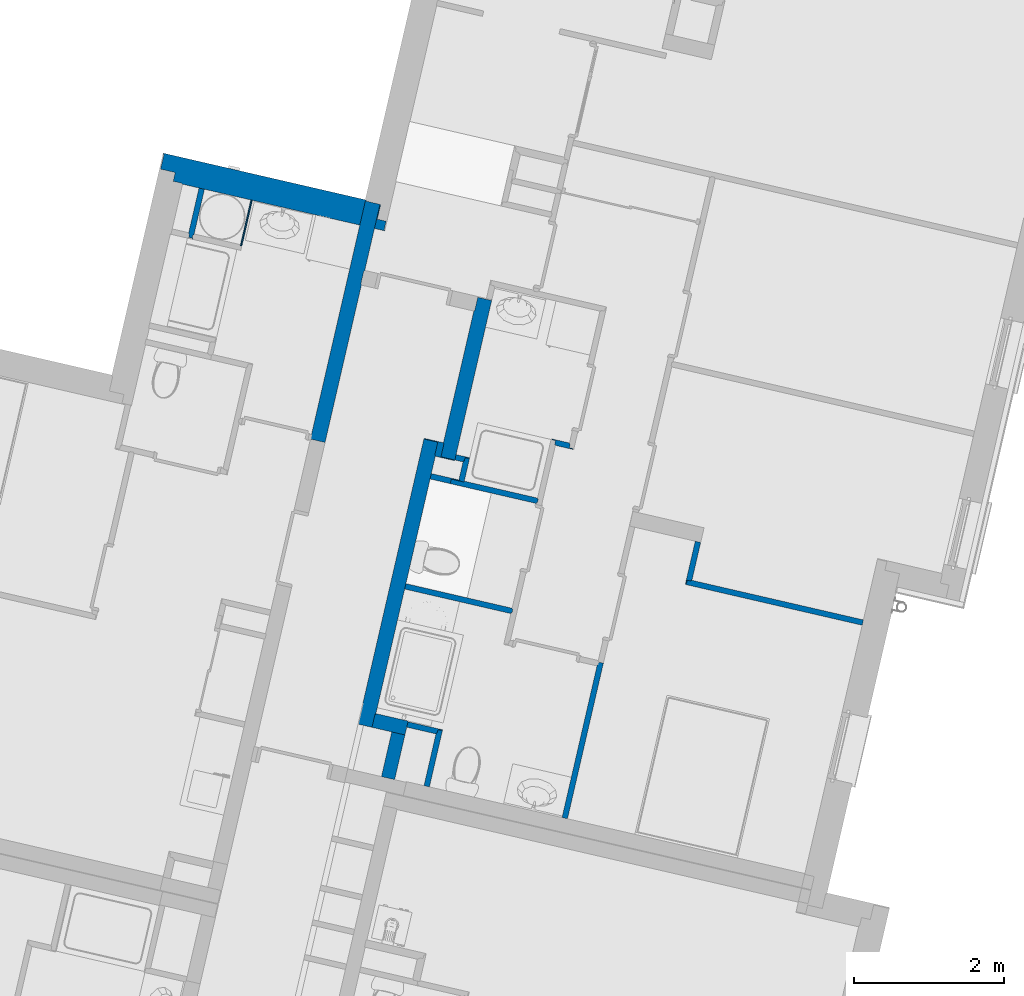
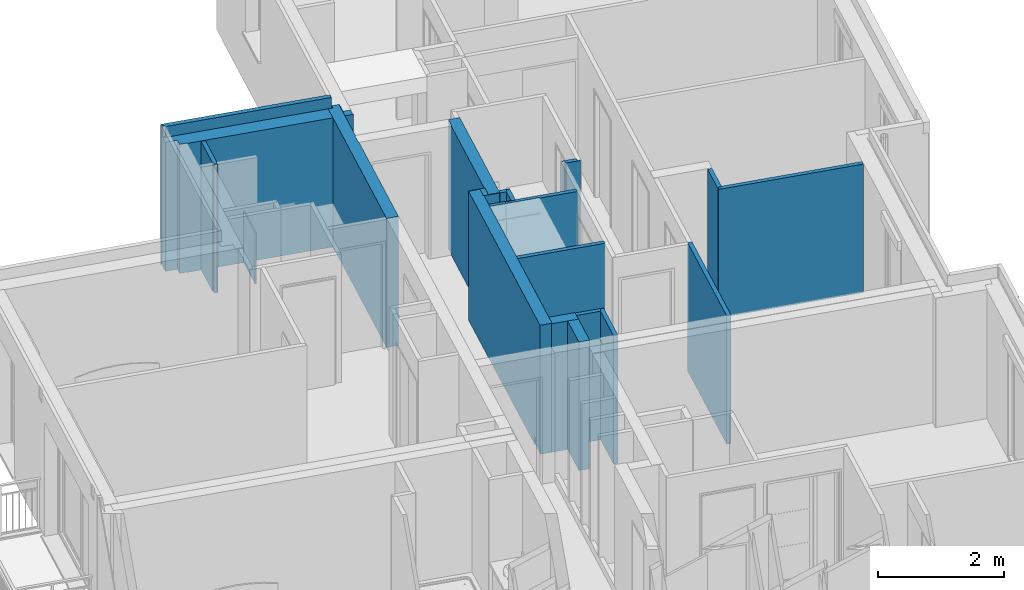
# One storey, part 47 of 91: 20 walls.
"""IFC2X3 building model written with IfcOpenShell, lengths in metres."""

from ifc_helpers import new_model, entity, si_unit, converted_unit, derived_unit, money_unit, direction, frame, origin_with_axes, place, context, subcontext, project, spatial, faceted_brep, material, material_list, type_object, element, save


model = new_model("IFC2X3")

# Units and contexts
model_context = context("Model", 3, precision=1e-05, world=origin_with_axes(), true_north=direction((0.0, 1.0)))
body_context = subcontext(model_context, "Body", "Model", "MODEL_VIEW")
ifc_project = project(units=[si_unit("LENGTHUNIT", "METRE"), si_unit("AREAUNIT", "SQUARE_METRE"), si_unit("VOLUMEUNIT", "CUBIC_METRE"), converted_unit("PLANEANGLEUNIT", "DEGREE", entity("IfcPlaneAngleMeasure", 0.0174532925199), si_unit("PLANEANGLEUNIT", "RADIAN"), dimensions=[0, 0, 0, 0, 0, 0, 0]), si_unit("SOLIDANGLEUNIT", "STERADIAN"), money_unit("EUR"), converted_unit("TIMEUNIT", "Year", entity("IfcTimeMeasure", 31556926.0), si_unit("TIMEUNIT", "SECOND"), dimensions=[0, 0, 1, 0, 0, 0, 0]), si_unit("MASSUNIT", "GRAM", prefix="KILO"), si_unit("THERMODYNAMICTEMPERATUREUNIT", "DEGREE_CELSIUS"), si_unit("LUMINOUSINTENSITYUNIT", "LUMEN"), si_unit("ENERGYUNIT", "JOULE", prefix="MEGA"), derived_unit("THERMALCONDUCTANCEUNIT", [(si_unit("POWERUNIT", "WATT"), 1), (si_unit("LENGTHUNIT", "METRE"), -1), (si_unit("THERMODYNAMICTEMPERATUREUNIT", "KELVIN"), -1)]), derived_unit("SPECIFICHEATCAPACITYUNIT", [(si_unit("ENERGYUNIT", "JOULE"), 1), (si_unit("MASSUNIT", "GRAM", prefix="KILO"), -1), (si_unit("THERMODYNAMICTEMPERATUREUNIT", "KELVIN"), -1)]), derived_unit("MASSDENSITYUNIT", [(si_unit("MASSUNIT", "GRAM", prefix="KILO"), 1), (si_unit("VOLUMEUNIT", "CUBIC_METRE"), -1)])], contexts=[model_context])

# Site, building, storey
site_placement = place(None, origin_with_axes())
site = spatial("IfcSite", under=ifc_project, at=site_placement, Name="Site", CompositionType="ELEMENT")
building_placement = place(site_placement, origin_with_axes())
building = spatial("IfcBuilding", under=site, at=building_placement, Name="Bâtiment", CompositionType="ELEMENT")
storey_placement = place(building_placement, frame((0.0, 0.0, 5.44), z_axis=(0.0, 0.0, 1.0), x_axis=(1.0, 0.0, 0.0)))
storey = spatial("IfcBuildingStorey", under=building, at=storey_placement, Name="R+2", CompositionType="ELEMENT", Elevation=5.44)

# Walls
ifc_material_1 = material(Name="Finition int - Plaque de plâtre")
ifc_material_2 = material(Name="Isolation - Polystyrène extrudé")
ifc_material_3 = material(Name="Bloc ELITHERM")
ifc_material_4 = material(Name="Isolation - Polystyrène expansé")
ifc_material_5 = material(Name="Mortier")
ifc_material_6 = material(Name="Béton cellulaire")
ifc_material_7 = material(Name="Finition ext - Crépis")
ifc_material_list_1 = material_list([ifc_material_1, ifc_material_2, ifc_material_3, ifc_material_4, ifc_material_5, ifc_material_6, ifc_material_7])
wall_type_1 = type_object("IfcWallType", Name="Mur ALKERN + planelle 21 345 x 2720", PredefinedType="USERDEFINED")
wall_1_placement = place(storey_placement, frame((-8.19769074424, 11.8040918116, 0.0), z_axis=(0.0, 0.0, 1.0), x_axis=(-0.974387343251, 0.224876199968, 0.0)))
element("IfcWall", 1, at=wall_1_placement, inside=storey, type_object=wall_type_1, material=ifc_material_list_1, Name="Mue bloc ALKERN isolé", ObjectType="SOLIDWALL", context=body_context, shape_type="Brep", body=[
    faceted_brep([(-0.344999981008, 0.335000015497, 0.0), (2.42531035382, 0.335000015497, 0.0), (2.42531035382, 0.335000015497, 2.51), (-0.344999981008, 0.335000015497, 2.51000000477), (-0.344999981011, 0.34499998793, 0.0), (2.42531035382, 0.34499998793, 0.0), (2.42531035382, 0.34499998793, 2.51), (-0.344999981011, 0.34499998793, 2.51000000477)], [[[0, 1, 2, 3]], [[4, 5, 1, 0]], [[5, 6, 2, 1]], [[3, 2, 6, 7]], [[7, 4, 0, 3]], [[7, 6, 5, 4]]]),
    faceted_brep([(2.54531037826, 0.335000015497, 2.50999999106), (-0.335000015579, 0.335000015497, 2.51), (-0.33500001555, 0.215000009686, 2.51), (2.54531037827, 0.215000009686, 2.50999999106), (2.54531037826, 0.335000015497, 0.0), (-0.335000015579, 0.335000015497, 0.0), (-0.33500001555, 0.215000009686, 0.0), (2.54531037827, 0.215000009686, 0.0)], [[[0, 1, 2, 3]], [[4, 5, 1, 0]], [[5, 6, 2, 1]], [[3, 2, 6, 7]], [[4, 0, 3, 7]], [[7, 6, 5, 4]]]),
    faceted_brep([(-0.215000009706, 0.0829999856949, 2.51), (-0.215000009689, 0.015, 2.51), (2.74531038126, 0.015, 2.50999999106), (2.74531038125, 0.0829999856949, 2.50999999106), (-0.215000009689, 0.015, 0.0), (-0.215000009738, 0.214999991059, 2.51), (-0.215000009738, 0.214999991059, 0.0), (2.74531038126, 0.015, 0.0), (2.74531038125, 0.214999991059, 0.0), (2.74531038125, 0.214999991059, 2.50999999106)], [[[0, 1, 2, 3]], [[4, 1, 0, 5, 6]], [[1, 4, 7, 2]], [[3, 2, 7, 8, 9]], [[5, 0, 3, 9]], [[6, 5, 9, 8]], [[4, 6, 8, 7]]]),
    faceted_brep([(-0.0610966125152, 0.083000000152, 2.72), (-0.0610966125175, 0.0629999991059, 2.72), (2.69731037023, 0.0630000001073, 2.72), (2.69731037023, 0.083000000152, 2.72), (-0.0610966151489, 0.0629999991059, 2.51999999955), (-0.0610966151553, 0.083, 2.51999998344), (2.69731037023, 0.0630000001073, 2.51999999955), (2.69731037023, 0.083000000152, 2.51999999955)], [[[0, 1, 2, 3]], [[4, 1, 0, 5]], [[1, 4, 6, 2]], [[7, 3, 2, 6]], [[5, 0, 3, 7]], [[4, 5, 7, 6]]]),
    faceted_brep([(2.74531038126, 0.015, 2.50999999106), (2.74531038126, 0.015, 2.51999999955), (-0.0830000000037, 0.015, 2.51999998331), (-0.0830000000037, 0.015, 2.51000000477), (2.74531038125, 0.083, 2.51999999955), (2.74531038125, 0.083, 2.50999999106), (-0.0830000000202, 0.083, 2.51999998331), (-0.0830000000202, 0.083, 2.51000000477)], [[[0, 1, 2, 3]], [[4, 1, 0, 5]], [[1, 4, 6, 2]], [[7, 3, 2, 6]], [[5, 0, 3, 7]], [[4, 5, 7, 6]]]),
    faceted_brep([(-0.0630000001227, 0.0629999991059, 2.72), (-0.0630000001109, 0.015, 2.72), (2.74531038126, 0.015, 2.72), (2.74531038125, 0.0629999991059, 2.72), (-0.0630000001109, 0.015, 2.51999999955), (-0.0630000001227, 0.0629999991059, 2.51999999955), (2.74531038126, 0.015, 2.51999999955), (2.74531038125, 0.0629999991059, 2.51999999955)], [[[0, 1, 2, 3]], [[4, 1, 0, 5]], [[1, 4, 6, 2]], [[3, 2, 6, 7]], [[5, 0, 3, 7]], [[4, 5, 7, 6]]]),
    faceted_brep([(2.76031035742, 0.0149999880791, 2.72), (-0.0150000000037, 0.0149999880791, 2.72), (-0.015, 0.0, 2.72), (2.76031035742, 0.0, 2.72), (-0.0150000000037, 0.0149999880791, 0.0), (2.76031035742, 0.0149999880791, 0.0), (-0.015, 0.0, 0.0), (2.76031035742, 0.0, 0.0)], [[[0, 1, 2, 3]], [[4, 1, 0, 5]], [[6, 2, 1, 4]], [[3, 2, 6, 7]], [[7, 5, 0, 3]], [[7, 6, 4, 5]]]),
])
ifc_material_8 = material(Name="Isolation - Laine de roche")
ifc_material_list_2 = material_list([ifc_material_1, ifc_material_8, ifc_material_1])
wall_type_2 = type_object("IfcWallType", Name="3 - Cloison 72mm Placostil 74", PredefinedType="USERDEFINED")
wall_2_placement = place(storey_placement, frame((-6.89703415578, 7.98844929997, 0.0), z_axis=(0.0, 0.0, 1.0), x_axis=(0.974387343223, -0.224876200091, 0.0)))
element("IfcWall", 2, at=wall_2_placement, inside=storey, type_object=wall_type_2, material=ifc_material_list_2, Name="Cloison Placostil 72/48", ObjectType="PARTITIONING", context=body_context, shape_type="Brep", body=[
    faceted_brep([(1.00000001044, 0.074, 0.0), (0.0, 0.074, 0.0), (0.0, 0.074, 2.5), (1.00000001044, 0.074, 2.5), (1.00000001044, 0.061, 0.0), (0.0, 0.061, 0.0), (0.0, 0.061, 2.5), (1.00000001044, 0.061, 2.5)], [[[0, 1, 2, 3]], [[4, 5, 1, 0]], [[5, 6, 2, 1]], [[3, 2, 6, 7]], [[3, 7, 4, 0]], [[7, 6, 5, 4]]]),
    faceted_brep([(1.01300001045, 0.013, 0.0), (-0.174000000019, 0.013, 0.0), (-0.174000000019, 0.061, 0.0), (1.01300001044, 0.061, 0.0), (1.01300001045, 0.013, 2.5), (-0.174000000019, 0.013, 2.5), (-0.174000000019, 0.061, 2.5), (1.01300001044, 0.061, 2.5)], [[[0, 1, 2, 3]], [[4, 5, 1, 0]], [[1, 5, 6, 2]], [[3, 2, 6, 7]], [[7, 4, 0, 3]], [[7, 6, 5, 4]]]),
    faceted_brep([(-0.174000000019, 0.0129999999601, 2.2), (0.386999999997, 0.0130000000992, 2.2), (0.386999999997, 0.0130000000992, 2.5), (1.00000001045, 0.013, 2.5), (1.00000001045, 0.013, 0.0), (-0.174000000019, 0.013, 0.0), (-0.174000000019, 0.0, 2.2), (0.387000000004, 0.0, 2.2), (0.387000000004, 0.0, 2.5), (1.00000001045, 0.0, 2.5), (1.00000001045, 0.0, 0.0), (-0.174000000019, 0.0, 0.0)], [[[0, 1, 2, 3, 4, 5]], [[1, 0, 6, 7]], [[8, 2, 1, 7]], [[2, 8, 9, 3]], [[3, 9, 10, 4]], [[10, 11, 5, 4]], [[6, 0, 5, 11]], [[7, 6, 11, 10, 9, 8]]]),
])
wall_3_placement = place(storey_placement, frame((-5.42479558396, 8.47996694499, 0.0), z_axis=(0.0, 0.0, 1.0), x_axis=(-0.974387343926, 0.224876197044, 0.0)))
element("IfcWall", 3, at=wall_3_placement, inside=storey, type_object=wall_type_2, material=ifc_material_list_2, Name="Cloison Placostil 72/48", ObjectType="PARTITIONING", context=body_context, shape_type="Brep", body=[
    faceted_brep([(0.24999999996, -0.013, 2.5), (0.249999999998, 0.0, 2.5), (0.013, 0.0, 2.5), (0.012999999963, -0.013, 2.5), (0.24999999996, -0.013, 0.0), (0.249999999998, 0.0, 0.0), (0.013, 0.0, 0.0), (0.012999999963, -0.013, 0.0)], [[[0, 1, 2, 3]], [[1, 0, 4, 5]], [[1, 5, 6, 2]], [[7, 3, 2, 6]], [[4, 0, 3, 7]], [[5, 4, 7, 6]]]),
    faceted_brep([(0.26299999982, -0.061, 2.5), (0.26299999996, -0.013, 2.5), (0.060999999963, -0.013, 2.5), (0.0609999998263, -0.061, 2.5), (0.26299999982, -0.061, 0.0), (0.26299999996, -0.013, 0.0), (0.060999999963, -0.013, 0.0), (0.0609999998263, -0.061, 0.0)], [[[0, 1, 2, 3]], [[1, 0, 4, 5]], [[1, 5, 6, 2]], [[7, 3, 2, 6]], [[4, 0, 3, 7]], [[5, 4, 7, 6]]]),
    faceted_brep([(0.310999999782, -0.074, 2.5), (0.31099999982, -0.061, 2.5), (0.0739999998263, -0.061, 2.5), (0.0739999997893, -0.074, 2.5), (0.310999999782, -0.074, 0.0), (0.31099999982, -0.061, 0.0), (0.0739999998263, -0.061, 0.0), (0.0739999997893, -0.074, 0.0)], [[[0, 1, 2, 3]], [[1, 0, 4, 5]], [[1, 5, 6, 2]], [[7, 3, 2, 6]], [[4, 0, 3, 7]], [[5, 4, 7, 6]]]),
])
wall_4_placement = place(storey_placement, frame((-6.17200813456, 6.35402185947, 0.0), z_axis=(0.0, 0.0, 1.0), x_axis=(-0.974387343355, 0.224876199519, 0.0)))
element("IfcWall", 4, at=wall_4_placement, inside=storey, type_object=wall_type_2, material=ifc_material_list_2, Name="Cloison Placostil 72/48", ObjectType="PARTITIONING", context=body_context, shape_type="Brep", body=[
    faceted_brep([(0.0740000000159, 0.074, 0.0), (1.52399999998, 0.074, 0.0), (1.52399999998, 0.061, 0.0), (0.0740000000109, 0.061, 0.0), (0.0740000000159, 0.074, 2.5), (1.52399999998, 0.074, 2.5), (1.52399999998, 0.061, 2.5), (0.0740000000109, 0.061, 2.5)], [[[0, 1, 2, 3]], [[4, 5, 1, 0]], [[2, 1, 5, 6]], [[3, 2, 6, 7]], [[4, 0, 3, 7]], [[7, 6, 5, 4]]]),
    faceted_brep([(0.0610000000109, 0.061, 0.0), (1.52399999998, 0.061, 0.0), (1.52399999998, 0.013, 0.0), (0.0609999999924, 0.013, 0.0), (0.0610000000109, 0.061, 2.5), (1.52399999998, 0.061, 2.5), (1.52399999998, 0.013, 2.5), (0.0609999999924, 0.013, 2.5)], [[[0, 1, 2, 3]], [[4, 5, 1, 0]], [[2, 1, 5, 6]], [[3, 2, 6, 7]], [[4, 0, 3, 7]], [[7, 6, 5, 4]]]),
    faceted_brep([(0.0739999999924, 0.013, 0.0), (1.52399999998, 0.013, 0.0), (1.52399999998, 0.0, 0.0), (0.0739999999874, 0.0, 0.0), (0.0739999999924, 0.013, 2.5), (1.52399999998, 0.013, 2.5), (1.52399999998, 0.0, 2.5), (0.0739999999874, 0.0, 2.5)], [[[0, 1, 2, 3]], [[4, 5, 1, 0]], [[2, 1, 5, 6]], [[3, 2, 6, 7]], [[4, 0, 3, 7]], [[7, 6, 5, 4]]]),
])
wall_5_placement = place(storey_placement, frame((-3.73316661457, 7.25519007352, 0.0), z_axis=(0.0, 0.0, 1.0), x_axis=(-0.224876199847, -0.974387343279, 0.0)))
element("IfcWall", 5, at=wall_5_placement, inside=storey, type_object=wall_type_2, material=ifc_material_list_2, Name="Cloison Placostil 72/48", ObjectType="PARTITIONING", context=body_context, shape_type="Brep", body=[
    faceted_brep([(0.0100000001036, 3.92746279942e-10, 0.0), (0.0100000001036, 3.92746279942e-10, 2.5), (0.526999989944, 0.0, 2.5), (0.526999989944, 0.0, 0.0), (0.0100000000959, -0.013, 2.5), (0.0100000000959, -0.013, 0.0), (0.526999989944, -0.013, 2.5), (0.526999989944, -0.013, 0.0)], [[[0, 1, 2, 3]], [[4, 1, 0, 5]], [[1, 4, 6, 2]], [[3, 2, 6, 7]], [[5, 0, 3, 7]], [[4, 5, 7, 6]]]),
    faceted_brep([(0.0100000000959, -0.013, 0.0), (0.0100000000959, -0.013, 2.5), (0.539999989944, -0.013, 2.5), (0.539999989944, -0.013, 0.0), (0.0100000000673, -0.061, 2.5), (0.0100000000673, -0.061, 0.0), (0.539999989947, -0.061, 2.5), (0.539999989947, -0.061, 0.0)], [[[0, 1, 2, 3]], [[4, 1, 0, 5]], [[1, 4, 6, 2]], [[3, 2, 6, 7]], [[5, 0, 3, 7]], [[4, 5, 7, 6]]]),
    faceted_brep([(0.0100000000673, -0.061, 0.0), (0.0100000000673, -0.061, 2.5), (0.587999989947, -0.061, 2.5), (0.587999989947, -0.061, 0.0), (0.0100000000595, -0.074, 2.5), (0.0100000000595, -0.074, 0.0), (0.587999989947, -0.074, 2.5), (0.587999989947, -0.074, 0.0)], [[[0, 1, 2, 3]], [[4, 1, 0, 5]], [[1, 4, 6, 2]], [[3, 2, 6, 7]], [[5, 0, 3, 7]], [[4, 5, 7, 6]]]),
])
wall_6_placement = place(storey_placement, frame((-5.10206374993, 5.65503833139, 0.0), z_axis=(0.0, 0.0, 1.0), x_axis=(-0.224876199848, -0.974387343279, 0.0)))
element("IfcWall", 6, at=wall_6_placement, inside=storey, type_object=wall_type_2, material=ifc_material_list_2, Name="Cloison Placostil 72/48", ObjectType="PARTITIONING", context=body_context, shape_type="Brep", body=[
    faceted_brep([(0.0, 0.074, 0.0), (2.1239999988, 0.074, 0.0), (2.1239999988, 0.061, 0.0), (0.0, 0.061, 0.0), (0.0, 0.074, 2.5), (2.1239999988, 0.074, 2.5), (2.1239999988, 0.061, 2.5), (0.0, 0.061, 2.5)], [[[0, 1, 2, 3]], [[4, 5, 1, 0]], [[2, 1, 5, 6]], [[3, 2, 6, 7]], [[4, 0, 3, 7]], [[7, 6, 5, 4]]]),
    faceted_brep([(0.0, 0.061, 0.0), (2.1239999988, 0.061, 0.0), (2.1239999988, 0.013, 0.0), (0.0, 0.013, 0.0), (0.0, 0.061, 2.5), (2.1239999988, 0.061, 2.5), (2.1239999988, 0.013, 2.5), (0.0, 0.013, 2.5)], [[[0, 1, 2, 3]], [[4, 5, 1, 0]], [[2, 1, 5, 6]], [[3, 2, 6, 7]], [[4, 0, 3, 7]], [[7, 6, 5, 4]]]),
    faceted_brep([(0.0, 0.013, 0.0), (2.1239999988, 0.013, 0.0), (2.1239999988, 0.0, 0.0), (0.0, 0.0, 0.0), (0.0, 0.013, 2.5), (2.1239999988, 0.013, 2.5), (2.1239999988, 0.0, 2.5), (0.0, 0.0, 2.5)], [[[0, 1, 2, 3]], [[4, 5, 1, 0]], [[2, 1, 5, 6]], [[3, 2, 6, 7]], [[4, 0, 3, 7]], [[7, 6, 5, 4]]]),
])
wall_7_placement = place(storey_placement, frame((-1.57018123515, 6.21514790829, 0.0), z_axis=(0.0, 0.0, 1.0), x_axis=(-0.97438734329, 0.224876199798, 0.0)))
element("IfcWall", 7, at=wall_7_placement, inside=storey, type_object=wall_type_2, material=ifc_material_list_2, Name="Cloison Placostil 72/48", ObjectType="PARTITIONING", context=body_context, shape_type="Brep", body=[
    faceted_brep([(2.4154663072, 0.074, 0.0), (2.4154663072, 0.061, 0.0), (0.0, 0.061, 0.0), (0.0, 0.074, 0.0), (2.4154663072, 0.074, 2.5), (2.4154663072, 0.061, 2.5), (0.0, 0.061, 2.5), (0.0, 0.074, 2.5)], [[[0, 1, 2, 3]], [[1, 0, 4, 5]], [[1, 5, 6, 2]], [[7, 3, 2, 6]], [[4, 0, 3, 7]], [[5, 4, 7, 6]]]),
    faceted_brep([(2.4024663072, 0.061, 0.0), (2.4024663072, 0.013, 0.0), (0.0, 0.013, 0.0), (0.0, 0.061, 0.0), (2.4024663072, 0.061, 2.5), (2.4024663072, 0.013, 2.5), (0.0, 0.013, 2.5), (0.0, 0.061, 2.5)], [[[0, 1, 2, 3]], [[1, 0, 4, 5]], [[1, 5, 6, 2]], [[7, 3, 2, 6]], [[4, 0, 3, 7]], [[5, 4, 7, 6]]]),
    faceted_brep([(2.3544663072, 0.013, 0.0), (2.3544663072, 0.0, 0.0), (0.0, 0.0, 0.0), (0.0, 0.013, 0.0), (2.3544663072, 0.013, 2.5), (2.3544663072, 0.0, 2.5), (0.0, 0.0, 2.5), (0.0, 0.013, 2.5)], [[[0, 1, 2, 3]], [[1, 0, 4, 5]], [[1, 5, 6, 2]], [[7, 3, 2, 6]], [[4, 0, 3, 7]], [[5, 4, 7, 6]]]),
])
ifc_material_9 = material(Name="Finition int - Enduit plâtre")
ifc_material_10 = material(Name="Béton")
ifc_material_list_3 = material_list([ifc_material_9, ifc_material_10, ifc_material_9])
wall_type_3 = type_object("IfcWallType", Name="2 - Murs Béton 18 + Enduit 2 Faces 200", PredefinedType="USERDEFINED")
wall_8_placement = place(storey_placement, frame((-7.41569905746, 8.63155637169, 0.0), z_axis=(0.0, 0.0, 1.0), x_axis=(-0.224876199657, -0.974387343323, 0.0)))
element("IfcWall", 8, at=wall_8_placement, inside=storey, type_object=wall_type_3, material=ifc_material_list_3, Name="M_Ext-008", ObjectType="SOLIDWALL", context=body_context, shape_type="Brep", body=[
    faceted_brep([(3.72352431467, 0.19, 2.5), (3.72352431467, 0.19, 0.0), (3.72352431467, 0.2, 0.0), (3.72352431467, 0.2, 2.5), (0.190000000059, 0.19, 0.0), (3.90352431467, 0.19, 2.5), (3.90352431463, 0.19, 2.51), (0.190000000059, 0.19, 2.51), (0.190000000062, 0.2, 0.0), (0.190000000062, 0.2, 2.51), (3.90352431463, 0.2, 2.51), (3.90352431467, 0.2, 2.5)], [[[0, 1, 2, 3]], [[4, 1, 0, 5, 6, 7]], [[8, 2, 1, 4]], [[3, 2, 8, 9, 10, 11]], [[0, 3, 11, 5]], [[6, 5, 11, 10]], [[9, 7, 6, 10]], [[7, 9, 8, 4]]]),
    faceted_brep([(3.90352431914, 0.19, 2.5), (3.9035243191, 0.01, 2.5), (3.90352431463, 0.01, 0.150000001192), (3.90352431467, 0.19, 0.150000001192), (3.90352431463, 0.19, 2.51), (3.90352431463, 0.01, 2.51), (0.0100000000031, 0.01, 2.51), (0.0100000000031, 0.01, 0.0), (3.90352431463, 0.01, 0.0), (3.90352431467, 0.19, 0.0), (0.0100000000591, 0.19, 0.0), (0.0100000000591, 0.19, 2.51)], [[[0, 1, 2, 3]], [[4, 5, 1, 0]], [[6, 7, 8, 2, 1, 5]], [[2, 8, 9, 3]], [[4, 0, 3, 9, 10, 11]], [[11, 6, 5, 4]], [[6, 11, 10, 7]], [[7, 10, 9, 8]]]),
    faceted_brep([(3.90352431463, 0.01, 0.15), (3.61352431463, 0.01, 0.15), (3.61352431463, 0.01, 0.0), (0.0, 0.01, 0.0), (0.0, 0.01, 2.51), (3.90352431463, 0.01, 2.51), (3.9035243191, 0.01, 2.5), (3.61352431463, 0.0, 0.15), (3.90352431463, 0.0, 0.15), (3.61352431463, 0.0, 0.0), (0.0, 0.0, 0.0), (0.0, 0.0, 2.51), (3.90352431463, 0.0, 2.51), (3.9035243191, 0.0, 2.5)], [[[0, 1, 2, 3, 4, 5, 6]], [[7, 1, 0, 8]], [[9, 2, 1, 7]], [[3, 2, 9, 10]], [[11, 4, 3, 10]], [[4, 11, 12, 5]], [[5, 12, 13, 6]], [[13, 8, 0, 6]], [[9, 7, 8, 13, 12, 11, 10]]]),
])
wall_9_placement = place(storey_placement, frame((-8.1864480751, 11.786102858, 0.0), z_axis=(0.0, 0.0, 1.0), x_axis=(-0.224876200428, -0.974387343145, 0.0)))
element("IfcWall", 9, at=wall_9_placement, inside=storey, type_object=wall_type_3, material=ifc_material_list_3, Name="M_Ext-009", ObjectType="SOLIDWALL", context=body_context, shape_type="Brep", body=[
    faceted_brep([(1.09242705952, 0.19, 0.0), (3.2515978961, 0.19, 0.0), (3.2515978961, 0.18, 0.0), (1.09242705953, 0.18, 0.0), (1.09242705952, 0.19, 2.51), (3.2515978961, 0.19, 2.51), (3.2515978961, 0.18, 2.51), (1.09242705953, 0.18, 2.51)], [[[0, 1, 2, 3]], [[4, 5, 1, 0]], [[2, 1, 5, 6]], [[3, 2, 6, 7]], [[4, 0, 3, 7]], [[7, 6, 5, 4]]]),
    faceted_brep([(0.912427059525, 0.19, 0.0), (0.912427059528, 0.18, 0.0), (0.0, 0.18, 0.0), (0.0, 0.19, 0.0), (0.912427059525, 0.19, 2.51), (0.912427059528, 0.18, 2.51), (0.0, 0.18, 2.51), (0.0, 0.19, 2.51)], [[[0, 1, 2, 3]], [[1, 0, 4, 5]], [[1, 5, 6, 2]], [[7, 3, 2, 6]], [[4, 0, 3, 7]], [[5, 4, 7, 6]]]),
    faceted_brep([(0.0, 0.18, 0.0), (3.2515978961, 0.18, 0.0), (3.2515978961, 0.0, 0.0), (0.0, 0.0, 0.0), (0.0, 0.18, 2.51), (3.2515978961, 0.18, 2.51), (3.2515978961, 0.0, 2.51), (0.0, 0.0, 2.51)], [[[0, 1, 2, 3]], [[4, 5, 1, 0]], [[2, 1, 5, 6]], [[3, 2, 6, 7]], [[4, 0, 3, 7]], [[7, 6, 5, 4]]]),
    faceted_brep([(0.0, 0.0, 0.0), (3.2515978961, 0.0, 0.0), (3.2515978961, -0.01, 0.0), (0.0, -0.01, 0.0), (0.0, 0.0, 2.51), (3.2515978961, 0.0, 2.51), (3.2515978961, -0.01, 2.51), (0.0, -0.01, 2.51)], [[[0, 1, 2, 3]], [[4, 5, 1, 0]], [[2, 1, 5, 6]], [[3, 2, 6, 7]], [[4, 0, 3, 7]], [[7, 6, 5, 4]]]),
])
wall_10_placement = place(storey_placement, frame((-6.75353951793, 10.3240004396, 0.0), z_axis=(0.0, 0.0, 1.0), x_axis=(-0.224876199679, -0.974387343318, 0.0)))
element("IfcWall", 10, at=wall_10_placement, inside=storey, type_object=wall_type_3, material=ifc_material_list_3, Name="M_Ext-008", ObjectType="SOLIDWALL", context=body_context, shape_type="Brep", body=[
    faceted_brep([(1.99800000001, 0.2, 0.0), (1.99800000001, 0.19, 0.0), (-0.19999999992, 0.19, 0.0), (-0.199999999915, 0.2, 0.0), (1.99800000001, 0.2, 2.51), (1.99800000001, 0.19, 2.51), (-0.19999999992, 0.19, 2.51), (-0.199999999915, 0.2, 2.51)], [[[0, 1, 2, 3]], [[1, 0, 4, 5]], [[1, 5, 6, 2]], [[7, 3, 2, 6]], [[4, 0, 3, 7]], [[5, 4, 7, 6]]]),
    faceted_brep([(1.98800000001, 0.19, 0.0), (1.98799999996, 0.01, 0.0), (-0.189999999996, 0.01, 0.0), (-0.18999999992, 0.19, 0.0), (1.98800000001, 0.19, 2.51), (1.98799999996, 0.01, 2.51), (-0.189999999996, 0.01, 2.51), (-0.18999999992, 0.19, 2.51)], [[[0, 1, 2, 3]], [[1, 0, 4, 5]], [[1, 5, 6, 2]], [[7, 3, 2, 6]], [[4, 0, 3, 7]], [[5, 4, 7, 6]]]),
    faceted_brep([(1.80799999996, 0.01, 0.0), (1.80799999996, 0.0, 0.0), (-0.01, 0.0, 0.0), (-0.00999999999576, 0.01, 0.0), (1.80799999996, 0.01, 2.51), (1.80799999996, 0.0, 2.51), (-0.01, 0.0, 2.51), (-0.00999999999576, 0.01, 2.51)], [[[0, 1, 2, 3]], [[1, 0, 4, 5]], [[1, 5, 6, 2]], [[7, 3, 2, 6]], [[4, 0, 3, 7]], [[5, 4, 7, 6]]]),
])
wall_11_placement = place(storey_placement, frame((-7.15786692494, 8.57205199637, 0.0), z_axis=(0.0, 0.0, 1.0), x_axis=(-0.974387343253, 0.22487619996, 0.0)))
element("IfcWall", 11, at=wall_11_placement, inside=storey, type_object=wall_type_3, material=ifc_material_list_3, Name="M_Ext-008", ObjectType="SOLIDWALL", context=body_context, shape_type="Brep", body=[
    faceted_brep([(0.0646094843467, 0.2, 0.0), (0.0646094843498, 0.19, 0.0), (-0.190000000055, 0.19, 0.0), (-0.190000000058, 0.2, 0.0), (0.0646094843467, 0.2, 2.51), (0.0646094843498, 0.19, 2.51), (-0.190000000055, 0.19, 2.51), (-0.190000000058, 0.2, 2.51)], [[[0, 1, 2, 3]], [[1, 0, 4, 5]], [[1, 5, 6, 2]], [[7, 3, 2, 6]], [[4, 0, 3, 7]], [[5, 4, 7, 6]]]),
    faceted_brep([(0.0746094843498, 0.19, 0.0), (0.0746094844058, 0.01, 0.0), (-0.0100000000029, 0.01, 0.0), (-0.0100000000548, 0.19, 0.0), (0.0746094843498, 0.19, 2.51), (0.0746094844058, 0.01, 2.51), (-0.0100000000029, 0.01, 2.51), (-0.0100000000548, 0.19, 2.51)], [[[0, 1, 2, 3]], [[1, 0, 4, 5]], [[1, 5, 6, 2]], [[7, 3, 2, 6]], [[4, 0, 3, 7]], [[5, 4, 7, 6]]]),
    faceted_brep([(0.254609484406, 0.01, 0.0), (0.254609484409, 0.0, 0.0), (0.0, 0.0, 0.0), (0.0, 0.01, 0.0), (0.254609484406, 0.01, 2.51), (0.254609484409, 0.0, 2.51), (0.0, 0.0, 2.51), (0.0, 0.01, 2.51)], [[[0, 1, 2, 3]], [[1, 0, 4, 5]], [[1, 5, 6, 2]], [[7, 3, 2, 6]], [[4, 0, 3, 7]], [[5, 4, 7, 6]]]),
])
wall_type_4 = type_object("IfcWallType", Name="3 - Cloison Gaine Technique 72mm 74", PredefinedType="USERDEFINED")
wall_12_placement = place(storey_placement, frame((-6.82507377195, 8.30025324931, 0.0), z_axis=(0.0, 0.0, 1.0), x_axis=(-0.224876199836, -0.974387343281, 0.0)))
element("IfcWall", 12, at=wall_12_placement, inside=storey, type_object=wall_type_4, material=ifc_material_list_2, Name="Cloison Placostil 72/48", ObjectType="PARTITIONING", context=body_context, shape_type="Brep", body=[
    faceted_brep([(-0.0740000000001, -0.013, 2.5), (0.258999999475, -0.013, 2.5), (0.258999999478, 0.0, 2.5), (-0.074, 0.0, 2.5), (-0.0740000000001, -0.013, 0.0), (0.258999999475, -0.013, 0.0), (0.258999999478, 0.0, 0.0), (-0.074, 0.0, 0.0)], [[[0, 1, 2, 3]], [[4, 5, 1, 0]], [[5, 6, 2, 1]], [[3, 2, 6, 7]], [[7, 4, 0, 3]], [[7, 6, 5, 4]]]),
    faceted_brep([(-0.0610000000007, -0.061, 2.5), (0.258999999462, -0.061, 2.5), (0.258999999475, -0.013, 2.5), (-0.0610000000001, -0.013, 2.5), (-0.0610000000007, -0.061, 0.0), (0.258999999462, -0.061, 0.0), (0.258999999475, -0.013, 0.0), (-0.0610000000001, -0.013, 0.0)], [[[0, 1, 2, 3]], [[4, 5, 1, 0]], [[6, 2, 1, 5]], [[3, 2, 6, 7]], [[7, 4, 0, 3]], [[7, 6, 5, 4]]]),
    faceted_brep([(-0.0130000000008, -0.074, 2.5), (0.245999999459, -0.074, 2.5), (0.245999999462, -0.061, 2.5), (-0.0130000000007, -0.061, 2.5), (-0.0130000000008, -0.074, 0.0), (0.245999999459, -0.074, 0.0), (0.245999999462, -0.061, 0.0), (-0.0130000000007, -0.061, 0.0)], [[[0, 1, 2, 3]], [[4, 5, 1, 0]], [[6, 2, 1, 5]], [[3, 2, 6, 7]], [[7, 4, 0, 3]], [[7, 6, 5, 4]]]),
])
wall_13_placement = place(storey_placement, frame((-7.33550845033, 8.08964358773, 0.0), z_axis=(0.0, 0.0, 1.0), x_axis=(0.974387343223, -0.224876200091, 0.0)))
element("IfcWall", 13, at=wall_13_placement, inside=storey, type_object=wall_type_4, material=ifc_material_list_2, Name="Cloison Placostil 72/48", ObjectType="PARTITIONING", context=body_context, shape_type="Brep", body=[
    faceted_brep([(0.0, 0.074, 0.0), (0.388999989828, 0.074, 0.0), (0.388999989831, 0.061, 0.0), (0.0, 0.061, 0.0), (0.0, 0.074, 2.5), (0.388999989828, 0.074, 2.5), (0.388999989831, 0.061, 2.5), (0.0, 0.061, 2.5)], [[[0, 1, 2, 3]], [[4, 5, 1, 0]], [[6, 2, 1, 5]], [[3, 2, 6, 7]], [[7, 4, 0, 3]], [[7, 6, 5, 4]]]),
    faceted_brep([(0.0, 0.013, 2.5), (0.275999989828, 0.013, 2.5), (0.275999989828, 0.061, 2.5), (0.0, 0.061, 2.5), (0.0, 0.013, 0.0), (0.275999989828, 0.013, 0.0), (0.275999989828, 0.061, 0.0), (0.0, 0.061, 0.0)], [[[0, 1, 2, 3]], [[4, 5, 1, 0]], [[5, 6, 2, 1]], [[3, 2, 6, 7]], [[0, 3, 7, 4]], [[7, 6, 5, 4]]]),
    faceted_brep([(0.0, 0.0129999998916, 2.2), (0.275999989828, 0.0129999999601, 2.2), (0.275999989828, 0.013, 0.0), (0.0, 0.013, 0.0), (0.275999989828, 0.0, 2.2), (0.0, 0.0, 2.2), (0.275999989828, 0.0, 0.0), (0.0, 0.0, 0.0)], [[[0, 1, 2, 3]], [[4, 1, 0, 5]], [[1, 4, 6, 2]], [[3, 2, 6, 7]], [[5, 0, 3, 7]], [[4, 5, 7, 6]]]),
])
wall_14_placement = place(storey_placement, frame((-10.3373790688, 11.9438360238, 0.0), z_axis=(0.0, 0.0, 1.0), x_axis=(-0.224876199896, -0.974387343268, 0.0)))
element("IfcWall", 14, at=wall_14_placement, inside=storey, type_object=wall_type_4, material=ifc_material_list_2, Name="Cloison Placostil 72/48", ObjectType="PARTITIONING", context=body_context, shape_type="Brep", body=[
    faceted_brep([(0.684000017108, 0.0, 0.0), (0.671000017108, 0.0, 0.0), (0.671000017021, 0.0, 2.5), (0.684000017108, 0.0, 2.5), (0.684000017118, -0.013, 0.0), (0.671000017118, -0.013, 0.0), (0.671000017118, -0.013, 2.5), (0.684000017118, -0.013, 2.5)], [[[0, 1, 2, 3]], [[4, 5, 1, 0]], [[5, 6, 2, 1]], [[3, 2, 6, 7]], [[0, 3, 7, 4]], [[7, 6, 5, 4]]]),
    faceted_brep([(0.0, -0.013, 2.5), (0.623000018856, -0.013, 2.5), (0.623000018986, 0.0, 2.5), (0.0, 0.0, 2.5), (0.0, -0.013, 0.0), (0.623000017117, -0.013, 0.0), (0.623000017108, 0.0, 0.0), (0.0, 0.0, 0.0)], [[[0, 1, 2, 3]], [[4, 5, 1, 0]], [[5, 6, 2, 1]], [[3, 2, 6, 7]], [[7, 4, 0, 3]], [[7, 6, 5, 4]]]),
    faceted_brep([(0.0, -0.061, 2.5), (0.671000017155, -0.061, 2.5), (0.671000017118, -0.013, 2.5), (0.0, -0.013, 2.5), (0.0, -0.061, 0.0), (0.671000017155, -0.061, 0.0), (0.671000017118, -0.013, 0.0), (0.0, -0.013, 0.0)], [[[0, 1, 2, 3]], [[4, 5, 1, 0]], [[6, 2, 1, 5]], [[3, 2, 6, 7]], [[7, 4, 0, 3]], [[7, 6, 5, 4]]]),
    faceted_brep([(0.623000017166, -0.074, 2.5), (0.623000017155, -0.061, 2.5), (0.0, -0.061, 2.5), (0.0, -0.074, 2.5), (0.623000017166, -0.074, 0.0), (0.623000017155, -0.061, 0.0), (0.0, -0.061, 0.0), (0.0, -0.074, 0.0)], [[[0, 1, 2, 3]], [[1, 0, 4, 5]], [[1, 5, 6, 2]], [[7, 3, 2, 6]], [[4, 0, 3, 7]], [[5, 4, 7, 6]]]),
])
wall_15_placement = place(storey_placement, frame((-7.16853794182, 4.75311419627, 0.0), z_axis=(0.0, 0.0, 1.0), x_axis=(-0.224876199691, -0.974387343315, 0.0)))
element("IfcWall", 15, at=wall_15_placement, inside=storey, type_object=wall_type_4, material=ifc_material_list_2, Name="Cloison Placostil 72/48", ObjectType="PARTITIONING", context=body_context, shape_type="Brep", body=[
    faceted_brep([(0.0, -0.013, 2.5), (0.780475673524, -0.013, 2.5), (0.780475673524, 0.0, 2.5), (0.0, 0.0, 2.5), (0.0, -0.013, 0.0), (0.780475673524, -0.013, 0.0), (0.780475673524, 0.0, 0.0), (0.0, 0.0, 0.0)], [[[0, 1, 2, 3]], [[4, 5, 1, 0]], [[2, 1, 5, 6]], [[3, 2, 6, 7]], [[4, 0, 3, 7]], [[7, 6, 5, 4]]]),
    faceted_brep([(0.0129999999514, -0.061, 2.5), (0.780475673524, -0.061, 2.5), (0.780475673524, -0.013, 2.5), (0.0129999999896, -0.013, 2.5), (0.0129999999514, -0.061, 0.0), (0.780475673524, -0.061, 0.0), (0.780475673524, -0.013, 0.0), (0.0129999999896, -0.013, 0.0)], [[[0, 1, 2, 3]], [[4, 5, 1, 0]], [[2, 1, 5, 6]], [[3, 2, 6, 7]], [[4, 0, 3, 7]], [[7, 6, 5, 4]]]),
    faceted_brep([(0.060999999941, -0.074, 2.5), (0.780475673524, -0.074, 2.5), (0.780475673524, -0.061, 2.5), (0.0609999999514, -0.061, 2.5), (0.060999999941, -0.074, 0.0), (0.780475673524, -0.074, 0.0), (0.780475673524, -0.061, 0.0), (0.0609999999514, -0.061, 0.0)], [[[0, 1, 2, 3]], [[4, 5, 1, 0]], [[2, 1, 5, 6]], [[3, 2, 6, 7]], [[4, 0, 3, 7]], [[7, 6, 5, 4]]]),
])
wall_16_placement = place(storey_placement, frame((-7.62942315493, 4.85948063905, 0.0), z_axis=(0.0, 0.0, 1.0), x_axis=(0.974387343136, -0.224876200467, 0.0)))
element("IfcWall", 16, at=wall_16_placement, inside=storey, type_object=wall_type_4, material=ifc_material_list_2, Name="Cloison Placostil 72/48", ObjectType="PARTITIONING", context=body_context, shape_type="Brep", body=[
    faceted_brep([(0.459999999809, -0.013, 2.5), (0.459999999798, 0.0, 2.5), (0.0, 0.0, 2.5), (0.0, -0.013, 2.5), (0.459999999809, -0.013, 0.0), (0.459999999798, 0.0, 0.0), (0.0, 0.0, 0.0), (0.0, -0.013, 0.0)], [[[0, 1, 2, 3]], [[1, 0, 4, 5]], [[1, 5, 6, 2]], [[7, 3, 2, 6]], [[4, 0, 3, 7]], [[5, 4, 7, 6]]]),
    faceted_brep([(0.411999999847, -0.061, 2.5), (0.411999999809, -0.013, 2.5), (0.0, -0.013, 2.5), (0.0, -0.061, 2.5), (0.411999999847, -0.061, 0.0), (0.411999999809, -0.013, 0.0), (0.0, -0.013, 0.0), (0.0, -0.061, 0.0)], [[[0, 1, 2, 3]], [[1, 0, 4, 5]], [[1, 5, 6, 2]], [[7, 3, 2, 6]], [[4, 0, 3, 7]], [[5, 4, 7, 6]]]),
    faceted_brep([(0.398999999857, -0.074, 2.5), (0.398999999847, -0.061, 2.5), (0.0, -0.061, 2.5), (0.0, -0.074, 2.5), (0.398999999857, -0.074, 0.0), (0.398999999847, -0.061, 0.0), (0.0, -0.061, 0.0), (0.0, -0.074, 0.0)], [[[0, 1, 2, 3]], [[1, 0, 4, 5]], [[1, 5, 6, 2]], [[7, 3, 2, 6]], [[4, 0, 3, 7]], [[5, 4, 7, 6]]]),
])
wall_17_placement = place(storey_placement, frame((-6.82507377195, 8.30025324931, 0.0), z_axis=(0.0, 0.0, 1.0), x_axis=(-0.974387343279, 0.224876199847, 0.0)))
element("IfcWall", 17, at=wall_17_placement, inside=storey, type_object=wall_type_4, material=ifc_material_list_2, Name="Cloison Placostil 72/48", ObjectType="PARTITIONING", context=body_context, shape_type="Brep", body=[
    faceted_brep([(0.0740000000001, -0.013, 2.5), (0.185390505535, -0.013, 2.5), (0.185390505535, 0.0, 2.5), (0.074, 0.0, 2.5), (0.0740000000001, -0.013, 0.0), (0.185390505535, -0.013, 0.0), (0.185390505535, 0.0, 0.0), (0.074, 0.0, 0.0)], [[[0, 1, 2, 3]], [[4, 5, 1, 0]], [[2, 1, 5, 6]], [[3, 2, 6, 7]], [[4, 0, 3, 7]], [[7, 6, 5, 4]]]),
    faceted_brep([(0.0610000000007, -0.061, 2.5), (0.185390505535, -0.061, 2.5), (0.185390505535, -0.013, 2.5), (0.0610000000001, -0.013, 2.5), (0.0610000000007, -0.061, 0.0), (0.185390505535, -0.061, 0.0), (0.185390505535, -0.013, 0.0), (0.0610000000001, -0.013, 0.0)], [[[0, 1, 2, 3]], [[4, 5, 1, 0]], [[2, 1, 5, 6]], [[3, 2, 6, 7]], [[4, 0, 3, 7]], [[7, 6, 5, 4]]]),
    faceted_brep([(0.0130000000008, -0.074, 2.5), (0.185390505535, -0.074, 2.5), (0.185390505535, -0.061, 2.5), (0.0130000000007, -0.061, 2.5), (0.0130000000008, -0.074, 0.0), (0.185390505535, -0.074, 0.0), (0.185390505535, -0.061, 0.0), (0.0130000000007, -0.061, 0.0)], [[[0, 1, 2, 3]], [[4, 5, 1, 0]], [[2, 1, 5, 6]], [[3, 2, 6, 7]], [[4, 0, 3, 7]], [[7, 6, 5, 4]]]),
])
ifc_material_list_4 = material_list([ifc_material_10, ifc_material_9])
wall_type_5 = type_object("IfcWallType", Name="2 - Murs Béton 18 + Enduit 1 Face 190", PredefinedType="USERDEFINED")
wall_18_placement = place(storey_placement, frame((-7.6699008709, 4.68409091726, 0.0), z_axis=(0.0, 0.0, 1.0), x_axis=(-0.974387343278, 0.224876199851, 0.0)))
element("IfcWall", 18, at=wall_18_placement, inside=storey, type_object=wall_type_5, material=ifc_material_list_4, Name="M_Ext-008", ObjectType="SOLIDWALL", context=body_context, shape_type="Brep", body=[
    faceted_brep([(0.0, -0.18, 0.0), (0.450000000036, -0.18, 0.0), (0.450000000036, -0.18, 2.5), (0.0, -0.18, 2.5), (0.0, 0.0, 0.0), (0.45, 0.0, 0.0), (0.45, 4.47035297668e-09, 2.5), (0.0, 0.0, 2.5)], [[[0, 1, 2, 3]], [[4, 5, 1, 0]], [[2, 1, 5, 6]], [[3, 2, 6, 7]], [[4, 0, 3, 7]], [[6, 5, 4, 7]]]),
    faceted_brep([(0.0, -0.19, 0.0), (0.440000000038, -0.19, 0.0), (0.440000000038, -0.19, 2.5), (0.0, -0.19, 2.5), (0.0, -0.18, 0.0), (0.440000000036, -0.18, 0.0), (0.440000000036, -0.18, 2.5), (0.0, -0.18, 2.5)], [[[0, 1, 2, 3]], [[4, 5, 1, 0]], [[2, 1, 5, 6]], [[3, 2, 6, 7]], [[4, 0, 3, 7]], [[6, 5, 4, 7]]]),
])
wall_type_6 = type_object("IfcWallType", Name="Béton 180", PredefinedType="USERDEFINED")
wall_19_placement = place(storey_placement, frame((-7.6699008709, 4.68409091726, 0.0), z_axis=(0.0, 0.0, 1.0), x_axis=(-0.224876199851, -0.974387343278, 0.0)))
element("IfcWall", 19, at=wall_19_placement, inside=storey, type_object=wall_type_6, material=ifc_material_10, Name="M_Ext-009", ObjectType="SOLIDWALL", context=body_context, shape_type="Brep", body=[
    faceted_brep([(0.0, 0.0, 2.5), (0.0, -0.18, 2.5), (0.610475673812, -0.18, 2.5), (0.610475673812, 0.0, 2.5), (0.0, 0.0, 0.0), (0.0, -0.18, 0.0), (0.610475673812, -0.18, 0.0), (0.610475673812, 0.0, 0.0)], [[[0, 1, 2, 3]], [[4, 5, 1, 0]], [[1, 5, 6, 2]], [[7, 3, 2, 6]], [[4, 0, 3, 7]], [[5, 4, 7, 6]]]),
])
ifc_material_11 = material(Name="Bois - Mélaminé blanc")
wall_type_7 = type_object("IfcWallType", Name="Bois - Mélaminé blanc 20", PredefinedType="USERDEFINED")
wall_20_placement = place(storey_placement, frame((-9.85394506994, 11.1302860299, 0.0), z_axis=(0.0, 0.0, 1.0), x_axis=(0.224876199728, 0.974387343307, 0.0)))
element("IfcWall", 20, at=wall_20_placement, inside=storey, type_object=wall_type_7, material=ifc_material_11, Name="Panneaux 20mm mélaminé blanc", ObjectType="PARTITIONING", context=body_context, shape_type="Brep", body=[
    faceted_brep([(0.061, 0.0, 0.0), (0.0609999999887, 0.02, 0.0), (0.684000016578, 0.02, 0.0), (0.684000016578, 0.0, 0.0), (0.061, 0.0, 1.0), (0.0609999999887, 0.02, 1.0), (0.684000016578, 0.02, 1.0), (0.684000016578, 0.0, 1.0)], [[[0, 1, 2, 3]], [[4, 5, 1, 0]], [[1, 5, 6, 2]], [[7, 3, 2, 6]], [[4, 0, 3, 7]], [[5, 4, 7, 6]]]),
])

save(model, "model.ifc")
